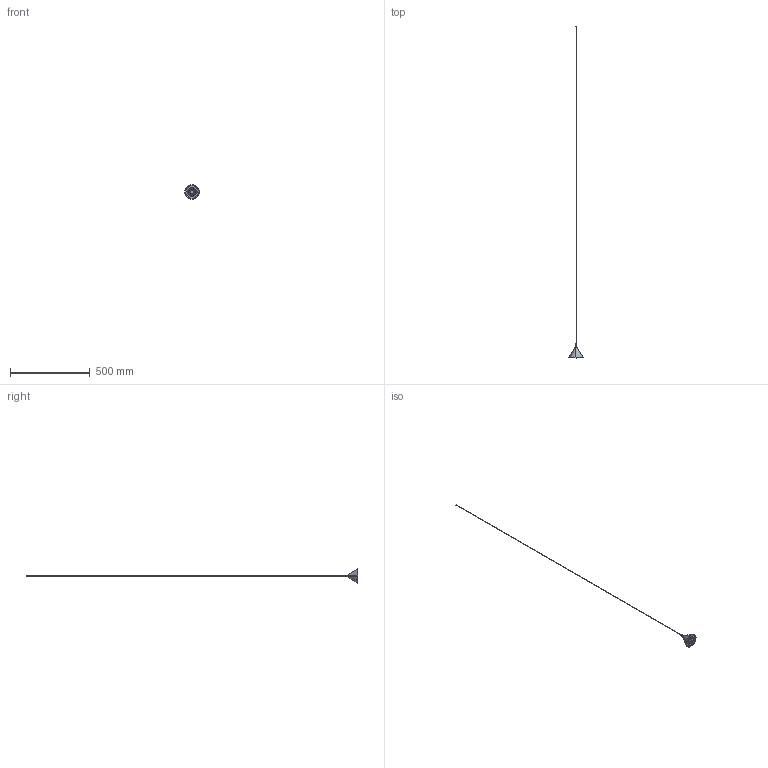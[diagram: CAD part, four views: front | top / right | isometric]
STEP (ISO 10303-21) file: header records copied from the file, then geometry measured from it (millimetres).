
FILE_DESCRIPTION (( 'STEP AP203' ), '1' );
FILE_NAME ('SJMOXXXXXXXXXX.STEP', '2025-11-14T17:12:25', ( '' ), ( '' ), 'SwSTEP 2.0', 'SolidWorks 2024', '' );
FILE_SCHEMA (( 'CONFIG_CONTROL_DESIGN' ));
Length unit declared in the file: millimetre
Products named in the file (6): WSCP2E0002-1404-01; SJMOXXXXXXXXXX; ASSIEME HOLDER+LENTE LEDLINK-01; WSCM2A0067-0700-00; CAVO NL2CN; WSR1TLL01CRCEW38L2
Assembly tree (5 placements, depth 3):
  SJMOXXXXXXXXXX
    WSCM2A0067-0700-00
    WSCP2E0002-1404-01
    ASSIEME HOLDER+LENTE LEDLINK-01
      WSR1TLL01CRCEW38L2
    CAVO NL2CN
Bounding box: 89.79 x 2075.36 x 89.79 mm (x, y, z)
Volume: 128016.1 mm3; surface area: 55081.6 mm2
Topology: 4 solids, 4 shells, 733 faces, 1826 edges, 1086 vertices
Faces by surface type: cylinder 374, bspline 219, plane 64, cone 62, sphere 10, torus 4
Entity records: 42091 total; most frequent: CARTESIAN_POINT 26964, ORIENTED_EDGE 3576, DIRECTION 2206, EDGE_CURVE 1788, VERTEX_POINT 1078, B_SPLINE_CURVE_WITH_KNOTS 1077, AXIS2_PLACEMENT_3D 977, EDGE_LOOP 770
